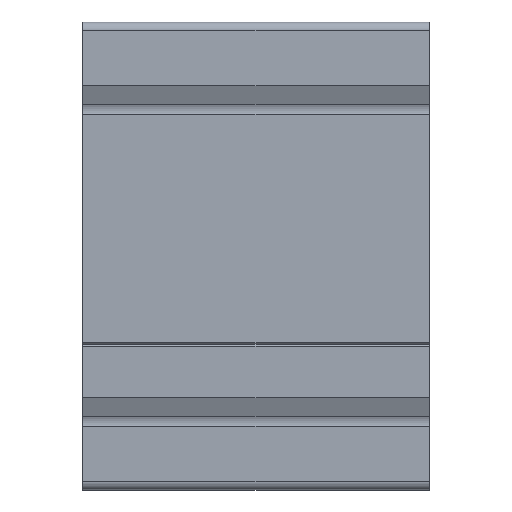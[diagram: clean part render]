
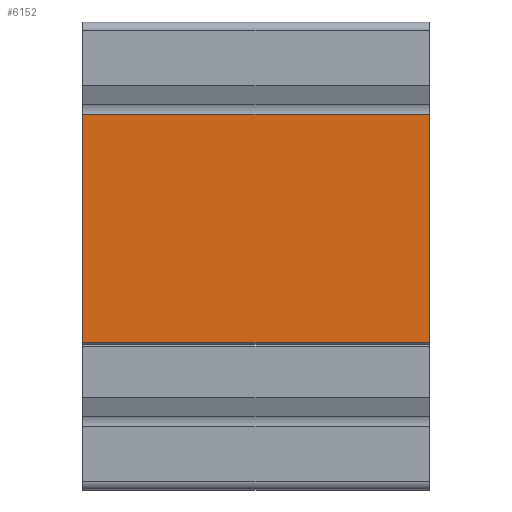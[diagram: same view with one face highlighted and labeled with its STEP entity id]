
A CAD part, front view. The second image highlights one B-rep face of the part: STEP entity #6152.
In plain terms, the highlighted planar face has unit normal (0, -1, 0).
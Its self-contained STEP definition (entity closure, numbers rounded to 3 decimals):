
#98 = PLANE ( 'NONE',  #4521 ) ;
#489 = DIRECTION ( 'NONE',  ( 0., 0., -1. ) ) ;
#506 = LINE ( 'NONE', #1151, #3407 ) ;
#684 = VERTEX_POINT ( 'NONE', #1049 ) ;
#735 = DIRECTION ( 'NONE',  ( 0., 1., 0. ) ) ;
#773 = CARTESIAN_POINT ( 'NONE',  ( 59.184, 9.898, 108.35 ) ) ;
#775 = EDGE_LOOP ( 'NONE', ( #1766, #4431, #6003, #4768 ) ) ;
#1049 = CARTESIAN_POINT ( 'NONE',  ( 59.184, 9.898, 108.35 ) ) ;
#1126 = DIRECTION ( 'NONE',  ( -1., 0., 0. ) ) ;
#1151 = CARTESIAN_POINT ( 'NONE',  ( 59.184, 9.898, 108.35 ) ) ;
#1209 = EDGE_CURVE ( 'NONE', #5222, #2575, #5735, .T. ) ;
#1378 = FACE_OUTER_BOUND ( 'NONE', #775, .T. ) ;
#1754 = LINE ( 'NONE', #3381, #1962 ) ;
#1766 = ORIENTED_EDGE ( 'NONE', *, *, #3124, .T. ) ;
#1962 = VECTOR ( 'NONE', #489, 1000. ) ;
#2221 = EDGE_CURVE ( 'NONE', #684, #5029, #506, .T. ) ;
#2509 = CARTESIAN_POINT ( 'NONE',  ( 59.184, 9.898, 108.35 ) ) ;
#2575 = VERTEX_POINT ( 'NONE', #3402 ) ;
#2637 = CARTESIAN_POINT ( 'NONE',  ( -40.816, 9.898, 108.35 ) ) ;
#2812 = CARTESIAN_POINT ( 'NONE',  ( 59.184, 9.898, 42.5 ) ) ;
#3124 = EDGE_CURVE ( 'NONE', #5029, #2575, #1754, .T. ) ;
#3381 = CARTESIAN_POINT ( 'NONE',  ( -40.816, 9.898, 108.35 ) ) ;
#3402 = CARTESIAN_POINT ( 'NONE',  ( -40.816, 9.898, 42.5 ) ) ;
#3407 = VECTOR ( 'NONE', #1126, 1000. ) ;
#4326 = EDGE_CURVE ( 'NONE', #684, #5222, #6101, .T. ) ;
#4431 = ORIENTED_EDGE ( 'NONE', *, *, #1209, .F. ) ;
#4521 = AXIS2_PLACEMENT_3D ( 'NONE', #2509, #735, #5413 ) ;
#4578 = DIRECTION ( 'NONE',  ( 0., 0., -1. ) ) ;
#4615 = VECTOR ( 'NONE', #5689, 1000. ) ;
#4705 = CARTESIAN_POINT ( 'NONE',  ( 59.184, 9.898, 42.5 ) ) ;
#4768 = ORIENTED_EDGE ( 'NONE', *, *, #2221, .T. ) ;
#5029 = VERTEX_POINT ( 'NONE', #2637 ) ;
#5222 = VERTEX_POINT ( 'NONE', #2812 ) ;
#5413 = DIRECTION ( 'NONE',  ( 0., 0., 1. ) ) ;
#5592 = VECTOR ( 'NONE', #4578, 1000. ) ;
#5689 = DIRECTION ( 'NONE',  ( -1., 0., 0. ) ) ;
#5735 = LINE ( 'NONE', #4705, #4615 ) ;
#6003 = ORIENTED_EDGE ( 'NONE', *, *, #4326, .F. ) ;
#6101 = LINE ( 'NONE', #773, #5592 ) ;
#6152 = ADVANCED_FACE ( 'NONE', ( #1378 ), #98, .F. ) ;
